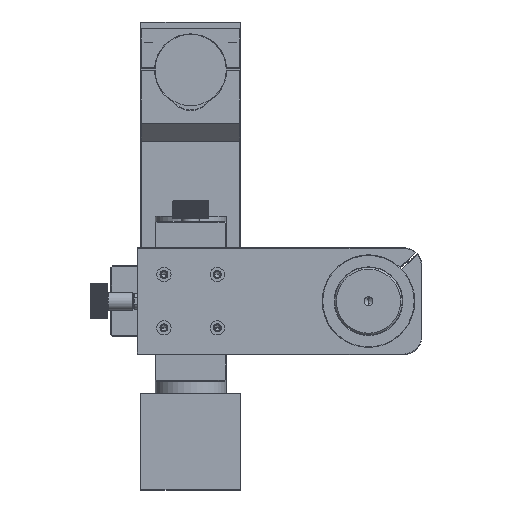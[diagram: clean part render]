
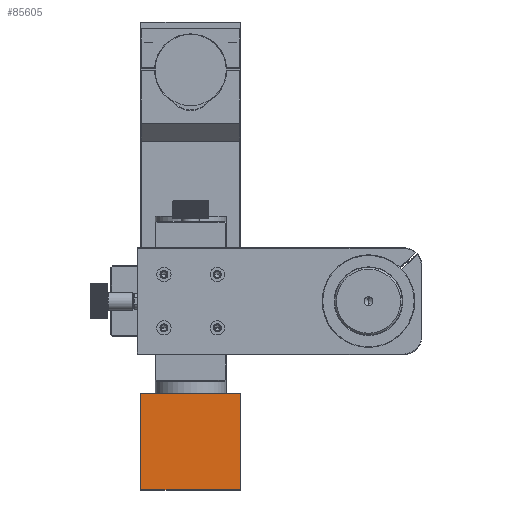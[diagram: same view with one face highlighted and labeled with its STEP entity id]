
A CAD part, front view. The second image highlights one B-rep face of the part: STEP entity #85605.
In plain terms, the highlighted planar face has unit normal (0, -1, 0).
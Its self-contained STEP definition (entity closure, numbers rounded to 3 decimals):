
#677 = VERTEX_POINT ( 'NONE', #106551 ) ;
#1600 = EDGE_CURVE ( 'NONE', #41471, #134030, #43986, .T. ) ;
#6729 = VECTOR ( 'NONE', #37149, 1000. ) ;
#9372 = FACE_OUTER_BOUND ( 'NONE', #147547, .T. ) ;
#11500 = CARTESIAN_POINT ( 'NONE',  ( -28., -27., 104. ) ) ;
#20707 = VERTEX_POINT ( 'NONE', #113292 ) ;
#22496 = ORIENTED_EDGE ( 'NONE', *, *, #136538, .F. ) ;
#23621 = EDGE_CURVE ( 'NONE', #41471, #20707, #35618, .T. ) ;
#26581 = CARTESIAN_POINT ( 'NONE',  ( 28., -27., 104. ) ) ;
#28887 = AXIS2_PLACEMENT_3D ( 'NONE', #45542, #53888, #77977 ) ;
#32754 = ORIENTED_EDGE ( 'NONE', *, *, #1600, .F. ) ;
#35521 = VECTOR ( 'NONE', #58980, 1000. ) ;
#35618 = LINE ( 'NONE', #81604, #35521 ) ;
#37149 = DIRECTION ( 'NONE',  ( 0., 0., -1. ) ) ;
#40187 = EDGE_CURVE ( 'NONE', #20707, #677, #61628, .T. ) ;
#41471 = VERTEX_POINT ( 'NONE', #90446 ) ;
#43986 = LINE ( 'NONE', #11500, #56030 ) ;
#45542 = CARTESIAN_POINT ( 'NONE',  ( -28., -27., 104. ) ) ;
#45908 = ORIENTED_EDGE ( 'NONE', *, *, #40187, .T. ) ;
#53888 = DIRECTION ( 'NONE',  ( 0., 1., 0. ) ) ;
#56030 = VECTOR ( 'NONE', #66601, 1000. ) ;
#58980 = DIRECTION ( 'NONE',  ( 0., 0., -1. ) ) ;
#61628 = LINE ( 'NONE', #119688, #144647 ) ;
#66601 = DIRECTION ( 'NONE',  ( 1., 0., 0. ) ) ;
#77977 = DIRECTION ( 'NONE',  ( 0., 0., 1. ) ) ;
#81604 = CARTESIAN_POINT ( 'NONE',  ( -28., -27., 104. ) ) ;
#85605 = ADVANCED_FACE ( 'NONE', ( #9372 ), #114179, .F. ) ;
#90446 = CARTESIAN_POINT ( 'NONE',  ( -28., -27., 104. ) ) ;
#106551 = CARTESIAN_POINT ( 'NONE',  ( 28., -27., 50. ) ) ;
#107278 = LINE ( 'NONE', #26581, #6729 ) ;
#107651 = DIRECTION ( 'NONE',  ( 1., 0., 0. ) ) ;
#113292 = CARTESIAN_POINT ( 'NONE',  ( -28., -27., 50. ) ) ;
#114179 = PLANE ( 'NONE',  #28887 ) ;
#119688 = CARTESIAN_POINT ( 'NONE',  ( -28., -27., 50. ) ) ;
#129921 = ORIENTED_EDGE ( 'NONE', *, *, #23621, .T. ) ;
#134030 = VERTEX_POINT ( 'NONE', #148203 ) ;
#136538 = EDGE_CURVE ( 'NONE', #134030, #677, #107278, .T. ) ;
#144647 = VECTOR ( 'NONE', #107651, 1000. ) ;
#147547 = EDGE_LOOP ( 'NONE', ( #45908, #22496, #32754, #129921 ) ) ;
#148203 = CARTESIAN_POINT ( 'NONE',  ( 28., -27., 104. ) ) ;
